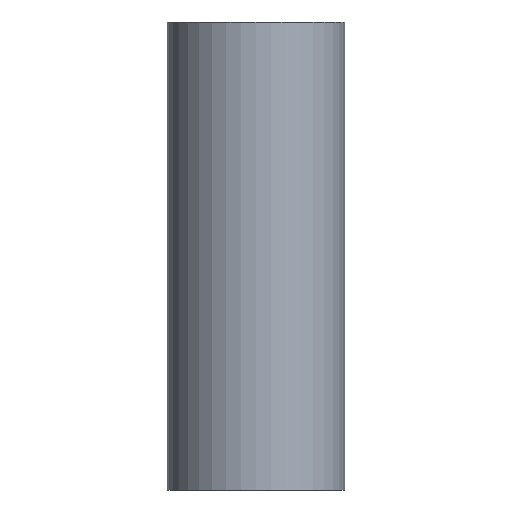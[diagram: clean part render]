
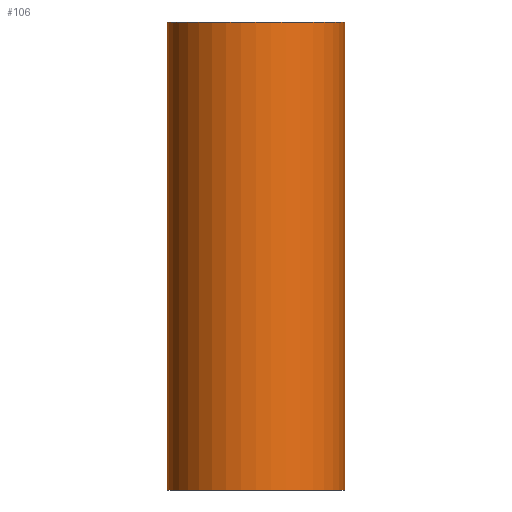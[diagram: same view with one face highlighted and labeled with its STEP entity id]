
A CAD part, left-side view. The second image highlights one B-rep face of the part: STEP entity #106.
In plain terms, the highlighted cylindrical face has radius 125 mm (diameter 250 mm), a full revolution.
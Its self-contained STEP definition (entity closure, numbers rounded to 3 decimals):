
#23=FACE_BOUND('',#47,.T.);
#24=FACE_BOUND('',#48,.T.);
#27=B_SPLINE_CURVE_WITH_KNOTS('',3,(#283,#284,#285,#286,#287,#288,#289,
#290,#291,#292,#293,#294,#295,#296,#297,#298,#299,#300,#301,#302,#303,#304,
#305,#306,#307,#308,#309,#310,#311,#312,#313,#314,#315,#316,#317,#318,#319,
#320,#321,#322,#323,#324,#325,#326,#327,#328,#329,#330,#331,#332,#333,#334,
#335,#336,#337,#338,#339,#340,#341,#342,#343,#344,#345,#346,#347,#348,#349,
#350,#351,#352,#353,#354,#355,#356,#357,#358,#359,#360,#361,#362,#363,#364,
#365,#366,#367,#368,#369,#370,#371,#372),.UNSPECIFIED.,.T.,.F.,(4,2,2,2,
2,2,2,2,2,2,2,2,2,2,2,2,2,2,2,2,2,2,2,2,2,2,2,2,2,2,2,2,2,2,2,2,2,2,2,2,
2,2,2,2,4),(0.,1.579,3.159,6.317,9.476,
12.635,15.88,19.126,20.006,20.887,
21.767,22.647,23.509,24.372,25.234,
26.096,29.242,32.387,35.616,38.844,
42.072,43.686,45.3,47.373,48.41,
49.446,50.483,51.52,52.557,53.593,
55.521,57.448,59.375,61.303,63.23,
65.157,67.085,69.012,70.049,71.086,
72.122,73.159,74.196,75.232,77.306),
 .UNSPECIFIED.);
#33=FACE_OUTER_BOUND('',#46,.T.);
#46=EDGE_LOOP('',(#84));
#47=EDGE_LOOP('',(#85));
#48=EDGE_LOOP('',(#86));
#55=CIRCLE('',#137,125.);
#56=CIRCLE('',#139,125.);
#62=VERTEX_POINT('',#282);
#63=VERTEX_POINT('',#375);
#64=VERTEX_POINT('',#378);
#70=EDGE_CURVE('',#62,#62,#27,.T.);
#71=EDGE_CURVE('',#63,#63,#55,.T.);
#72=EDGE_CURVE('',#64,#64,#56,.T.);
#84=ORIENTED_EDGE('',*,*,#71,.T.);
#85=ORIENTED_EDGE('',*,*,#70,.T.);
#86=ORIENTED_EDGE('',*,*,#72,.F.);
#92=CYLINDRICAL_SURFACE('',#138,125.);
#106=ADVANCED_FACE('',(#33,#23,#24),#92,.T.);
#137=AXIS2_PLACEMENT_3D('',#376,#161,#162);
#138=AXIS2_PLACEMENT_3D('',#377,#163,#164);
#139=AXIS2_PLACEMENT_3D('',#379,#165,#166);
#161=DIRECTION('center_axis',(0.,0.,-1.));
#162=DIRECTION('ref_axis',(1.,0.,0.));
#163=DIRECTION('center_axis',(0.,0.,-1.));
#164=DIRECTION('ref_axis',(-1.,0.,0.));
#165=DIRECTION('center_axis',(0.,0.,-1.));
#166=DIRECTION('ref_axis',(1.,0.,0.));
#282=CARTESIAN_POINT('',(75.,-100.,295.));
#283=CARTESIAN_POINT('Ctrl Pts',(75.,-100.,295.));
#284=CARTESIAN_POINT('Ctrl Pts',(75.,-100.,300.264));
#285=CARTESIAN_POINT('Ctrl Pts',(75.276,-99.794,305.59));
#286=CARTESIAN_POINT('Ctrl Pts',(76.254,-99.049,316.321));
#287=CARTESIAN_POINT('Ctrl Pts',(76.955,-98.509,321.727));
#288=CARTESIAN_POINT('Ctrl Pts',(79.537,-96.456,338.001));
#289=CARTESIAN_POINT('Ctrl Pts',(81.886,-94.513,348.925));
#290=CARTESIAN_POINT('Ctrl Pts',(87.193,-89.64,370.495));
#291=CARTESIAN_POINT('Ctrl Pts',(90.152,-86.708,381.134));
#292=CARTESIAN_POINT('Ctrl Pts',(96.204,-79.94,401.611));
#293=CARTESIAN_POINT('Ctrl Pts',(99.299,-76.102,411.447));
#294=CARTESIAN_POINT('Ctrl Pts',(105.334,-67.513,430.035));
#295=CARTESIAN_POINT('Ctrl Pts',(108.71,-62.118,440.075));
#296=CARTESIAN_POINT('Ctrl Pts',(115.101,-49.276,458.646));
#297=CARTESIAN_POINT('Ctrl Pts',(118.112,-41.824,467.177));
#298=CARTESIAN_POINT('Ctrl Pts',(121.057,-31.235,475.445));
#299=CARTESIAN_POINT('Ctrl Pts',(121.674,-28.769,477.171));
#300=CARTESIAN_POINT('Ctrl Pts',(122.798,-23.514,480.308));
#301=CARTESIAN_POINT('Ctrl Pts',(123.304,-20.726,481.717));
#302=CARTESIAN_POINT('Ctrl Pts',(124.137,-14.953,484.03));
#303=CARTESIAN_POINT('Ctrl Pts',(124.463,-11.964,484.933));
#304=CARTESIAN_POINT('Ctrl Pts',(124.894,-5.955,486.129));
#305=CARTESIAN_POINT('Ctrl Pts',(125.,-2.934,486.421));
#306=CARTESIAN_POINT('Ctrl Pts',(125.,2.874,486.421));
#307=CARTESIAN_POINT('Ctrl Pts',(124.899,5.835,486.141));
#308=CARTESIAN_POINT('Ctrl Pts',(124.483,11.732,484.99));
#309=CARTESIAN_POINT('Ctrl Pts',(124.17,14.668,484.121));
#310=CARTESIAN_POINT('Ctrl Pts',(123.367,20.343,481.891));
#311=CARTESIAN_POINT('Ctrl Pts',(122.878,23.088,480.53));
#312=CARTESIAN_POINT('Ctrl Pts',(121.791,28.264,477.499));
#313=CARTESIAN_POINT('Ctrl Pts',(121.194,30.696,475.83));
#314=CARTESIAN_POINT('Ctrl Pts',(118.365,41.06,467.889));
#315=CARTESIAN_POINT('Ctrl Pts',(115.471,48.385,459.697));
#316=CARTESIAN_POINT('Ctrl Pts',(109.307,61.045,441.83));
#317=CARTESIAN_POINT('Ctrl Pts',(106.044,66.387,432.158));
#318=CARTESIAN_POINT('Ctrl Pts',(100.034,75.148,413.759));
#319=CARTESIAN_POINT('Ctrl Pts',(96.863,79.15,403.748));
#320=CARTESIAN_POINT('Ctrl Pts',(90.649,86.196,382.89));
#321=CARTESIAN_POINT('Ctrl Pts',(87.605,89.243,372.046));
#322=CARTESIAN_POINT('Ctrl Pts',(82.135,94.301,350.048));
#323=CARTESIAN_POINT('Ctrl Pts',(79.707,96.317,338.905));
#324=CARTESIAN_POINT('Ctrl Pts',(77.033,98.449,322.296));
#325=CARTESIAN_POINT('Ctrl Pts',(76.305,99.01,316.777));
#326=CARTESIAN_POINT('Ctrl Pts',(75.288,99.785,305.819));
#327=CARTESIAN_POINT('Ctrl Pts',(75.,100.,300.38));
#328=CARTESIAN_POINT('Ctrl Pts',(75.,100.,288.089));
#329=CARTESIAN_POINT('Ctrl Pts',(75.493,99.641,280.901));
#330=CARTESIAN_POINT('Ctrl Pts',(77.327,98.215,270.399));
#331=CARTESIAN_POINT('Ctrl Pts',(78.119,97.591,266.943));
#332=CARTESIAN_POINT('Ctrl Pts',(80.062,96.003,260.228));
#333=CARTESIAN_POINT('Ctrl Pts',(81.214,95.038,256.969));
#334=CARTESIAN_POINT('Ctrl Pts',(83.822,92.747,250.734));
#335=CARTESIAN_POINT('Ctrl Pts',(85.282,91.415,247.746));
#336=CARTESIAN_POINT('Ctrl Pts',(88.419,88.385,242.085));
#337=CARTESIAN_POINT('Ctrl Pts',(90.095,86.686,239.412));
#338=CARTESIAN_POINT('Ctrl Pts',(93.543,82.953,234.407));
#339=CARTESIAN_POINT('Ctrl Pts',(95.315,80.919,232.074));
#340=CARTESIAN_POINT('Ctrl Pts',(98.838,76.576,227.75));
#341=CARTESIAN_POINT('Ctrl Pts',(100.588,74.268,225.759));
#342=CARTESIAN_POINT('Ctrl Pts',(105.413,67.4,220.547));
#343=CARTESIAN_POINT('Ctrl Pts',(108.523,62.339,217.538));
#344=CARTESIAN_POINT('Ctrl Pts',(114.162,51.288,212.387));
#345=CARTESIAN_POINT('Ctrl Pts',(116.69,45.298,210.244));
#346=CARTESIAN_POINT('Ctrl Pts',(120.806,32.777,206.852));
#347=CARTESIAN_POINT('Ctrl Pts',(122.398,26.236,205.6));
#348=CARTESIAN_POINT('Ctrl Pts',(124.495,13.06,203.963));
#349=CARTESIAN_POINT('Ctrl Pts',(125.,6.424,203.579));
#350=CARTESIAN_POINT('Ctrl Pts',(125.,-6.424,203.579));
#351=CARTESIAN_POINT('Ctrl Pts',(124.495,-13.06,203.963));
#352=CARTESIAN_POINT('Ctrl Pts',(122.398,-26.236,205.6));
#353=CARTESIAN_POINT('Ctrl Pts',(120.806,-32.777,206.852));
#354=CARTESIAN_POINT('Ctrl Pts',(116.69,-45.298,210.244));
#355=CARTESIAN_POINT('Ctrl Pts',(114.162,-51.288,212.387));
#356=CARTESIAN_POINT('Ctrl Pts',(108.523,-62.339,217.538));
#357=CARTESIAN_POINT('Ctrl Pts',(105.413,-67.4,220.547));
#358=CARTESIAN_POINT('Ctrl Pts',(100.588,-74.268,225.759));
#359=CARTESIAN_POINT('Ctrl Pts',(98.838,-76.576,227.75));
#360=CARTESIAN_POINT('Ctrl Pts',(95.315,-80.919,232.074));
#361=CARTESIAN_POINT('Ctrl Pts',(93.543,-82.953,234.407));
#362=CARTESIAN_POINT('Ctrl Pts',(90.095,-86.686,239.412));
#363=CARTESIAN_POINT('Ctrl Pts',(88.419,-88.385,242.085));
#364=CARTESIAN_POINT('Ctrl Pts',(85.282,-91.415,247.746));
#365=CARTESIAN_POINT('Ctrl Pts',(83.822,-92.747,250.734));
#366=CARTESIAN_POINT('Ctrl Pts',(81.214,-95.038,256.969));
#367=CARTESIAN_POINT('Ctrl Pts',(80.062,-96.003,260.228));
#368=CARTESIAN_POINT('Ctrl Pts',(78.119,-97.591,266.943));
#369=CARTESIAN_POINT('Ctrl Pts',(77.327,-98.215,270.399));
#370=CARTESIAN_POINT('Ctrl Pts',(75.493,-99.641,280.901));
#371=CARTESIAN_POINT('Ctrl Pts',(75.,-100.,288.089));
#372=CARTESIAN_POINT('Ctrl Pts',(75.,-100.,295.));
#375=CARTESIAN_POINT('',(-125.,0.,660.));
#376=CARTESIAN_POINT('Origin',(0.,0.,660.));
#377=CARTESIAN_POINT('Origin',(0.,0.,330.));
#378=CARTESIAN_POINT('',(-125.,0.,0.));
#379=CARTESIAN_POINT('Origin',(0.,0.,0.));
